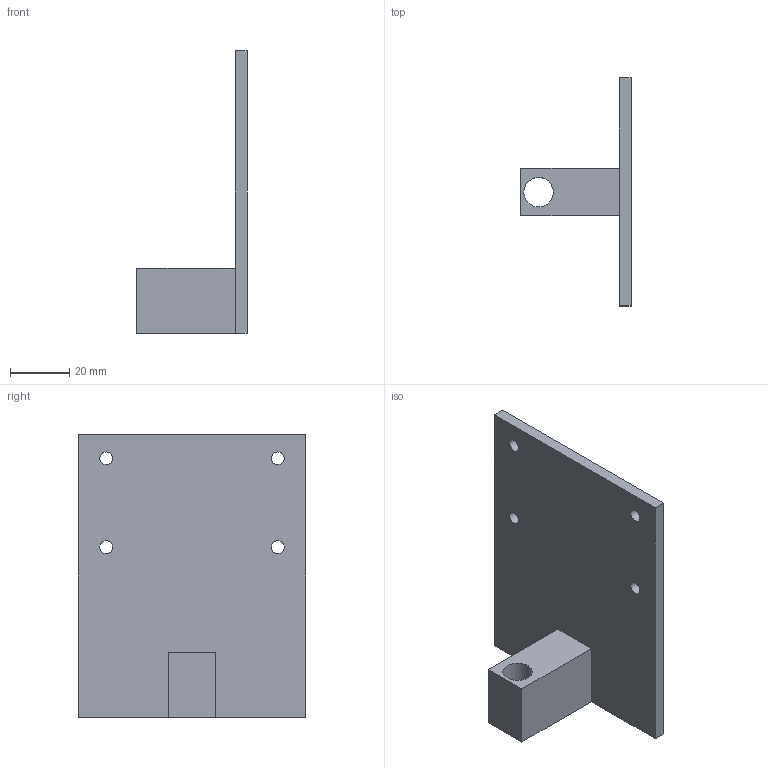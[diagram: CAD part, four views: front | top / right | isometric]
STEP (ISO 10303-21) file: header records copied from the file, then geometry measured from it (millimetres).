
FILE_DESCRIPTION(('Open CASCADE Model'),'2;1');
FILE_NAME('Open CASCADE Shape Model','2026-10-18T02:27:58',('Author'),( 'Open CASCADE'),'Open CASCADE STEP processor 7.9','Open CASCADE 7.9' ,'Unknown');
FILE_SCHEMA(('AUTOMOTIVE_DESIGN { 1 0 10303 214 1 1 1 1 }'));
Length unit declared in the file: millimetre
Products named in the file (1): Open CASCADE STEP translator 7.9 13
Bounding box: 37.25 x 77 x 95.5 mm (x, y, z)
Volume: 39157.8 mm3; surface area: 19248 mm2
Topology: 1 solids, 1 shells, 15 faces, 39 edges, 26 vertices
Faces by surface type: plane 10, cylinder 5
Full cylindrical faces by diameter (mm): 4.3 x4, 10 x1
Entity records: 1024 total; most frequent: CARTESIAN_POINT 225, DIRECTION 143, LINE 91, VECTOR 91, ORIENTED_EDGE 78, PCURVE 78, DEFINITIONAL_REPRESENTATION 78, EDGE_CURVE 39
